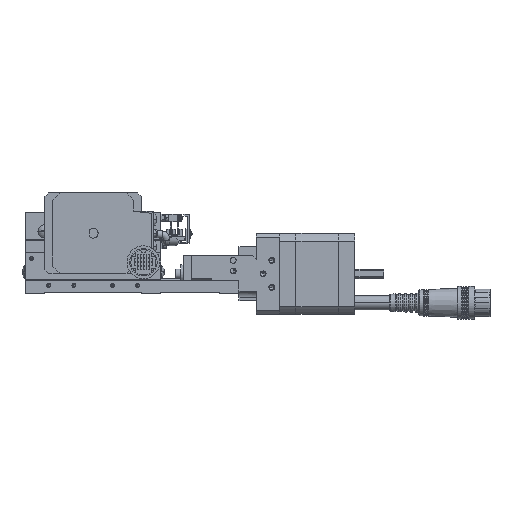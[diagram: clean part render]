
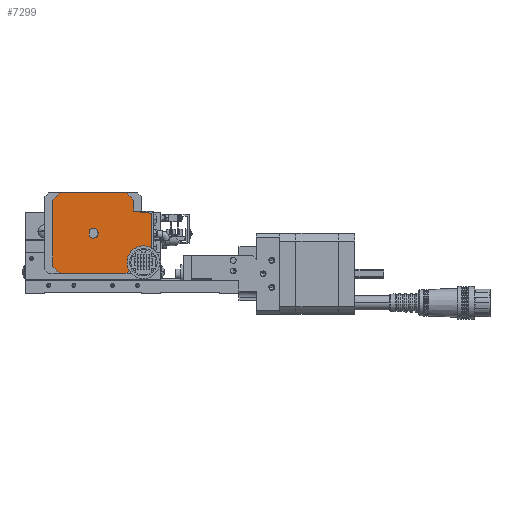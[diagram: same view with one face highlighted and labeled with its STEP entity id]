
A CAD part, front view. The second image highlights one B-rep face of the part: STEP entity #7299.
In plain terms, the highlighted planar face has unit normal (0, -1, 0) as drawn and (-1, 0, 0) by its records, which use the part's own axes.
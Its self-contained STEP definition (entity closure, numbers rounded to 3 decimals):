
#67 = EDGE_CURVE ( 'NONE', #96654, #120110, #41682, .T. ) ;
#1210 = EDGE_CURVE ( 'NONE', #100729, #46869, #6474, .T. ) ;
#1232 = DIRECTION ( 'NONE',  ( 0., -0.122, 0.993 ) ) ;
#1711 = CARTESIAN_POINT ( 'NONE',  ( -237.04, 5.275, -124.023 ) ) ;
#2752 = VECTOR ( 'NONE', #92043, 1000. ) ;
#2951 = AXIS2_PLACEMENT_3D ( 'NONE', #107377, #106962, #1232 ) ;
#3782 = AXIS2_PLACEMENT_3D ( 'NONE', #60313, #79775, #98337 ) ;
#3930 = CARTESIAN_POINT ( 'NONE',  ( -237.04, -3.725, -145.476 ) ) ;
#5865 = DIRECTION ( 'NONE',  ( 0., 0., -1. ) ) ;
#5866 = DIRECTION ( 'NONE',  ( 0., 0.778, 0.629 ) ) ;
#6474 = CIRCLE ( 'NONE', #7114, 27. ) ;
#6768 = EDGE_LOOP ( 'NONE', ( #83223, #121731, #15292, #112056, #106180, #106264, #63328, #22920, #55509, #65400, #79569, #59676, #13756, #70045 ) ) ;
#7114 = AXIS2_PLACEMENT_3D ( 'NONE', #15417, #83081, #113072 ) ;
#7299 = ADVANCED_FACE ( 'NONE', ( #58858, #33096 ), #38663, .F. ) ;
#9671 = VECTOR ( 'NONE', #60873, 1000. ) ;
#11633 = EDGE_CURVE ( 'NONE', #78178, #50554, #107888, .T. ) ;
#12672 = LINE ( 'NONE', #118751, #9671 ) ;
#12747 = CIRCLE ( 'NONE', #39600, 2.5 ) ;
#13327 = LINE ( 'NONE', #72217, #2752 ) ;
#13756 = ORIENTED_EDGE ( 'NONE', *, *, #67, .F. ) ;
#14201 = EDGE_CURVE ( 'NONE', #96919, #87639, #12747, .T. ) ;
#15292 = ORIENTED_EDGE ( 'NONE', *, *, #1210, .F. ) ;
#15417 = CARTESIAN_POINT ( 'NONE',  ( -237.04, 26.275, -135.523 ) ) ;
#17325 = VERTEX_POINT ( 'NONE', #101163 ) ;
#17919 = CARTESIAN_POINT ( 'NONE',  ( -237.04, 5.275, -124.023 ) ) ;
#19203 = DIRECTION ( 'NONE',  ( 1., 0., 0. ) ) ;
#19207 = VERTEX_POINT ( 'NONE', #24014 ) ;
#21455 = DIRECTION ( 'NONE',  ( 1., 0., 0. ) ) ;
#22920 = ORIENTED_EDGE ( 'NONE', *, *, #120442, .F. ) ;
#23160 = VERTEX_POINT ( 'NONE', #103707 ) ;
#24014 = CARTESIAN_POINT ( 'NONE',  ( -237.04, 43.246, -114.523 ) ) ;
#24165 = DIRECTION ( 'NONE',  ( 0., 0., -1. ) ) ;
#25520 = EDGE_CURVE ( 'NONE', #120110, #123852, #114483, .T. ) ;
#27183 = VERTEX_POINT ( 'NONE', #123508 ) ;
#27237 = DIRECTION ( 'NONE',  ( 0., -0.993, -0.122 ) ) ;
#28922 = DIRECTION ( 'NONE',  ( 0., 0., -1. ) ) ;
#28957 = CARTESIAN_POINT ( 'NONE',  ( -237.04, 28.275, -134.023 ) ) ;
#29709 = DIRECTION ( 'NONE',  ( 0., -1., 0. ) ) ;
#30760 = CARTESIAN_POINT ( 'NONE',  ( -237.04, -3.725, -125.57 ) ) ;
#32074 = CARTESIAN_POINT ( 'NONE',  ( -237.04, 5.275, -118.552 ) ) ;
#33096 = FACE_BOUND ( 'NONE', #81440, .T. ) ;
#33433 = AXIS2_PLACEMENT_3D ( 'NONE', #116547, #21455, #116979 ) ;
#35450 = CARTESIAN_POINT ( 'NONE',  ( -237.04, 5.275, -147.023 ) ) ;
#36725 = CARTESIAN_POINT ( 'NONE',  ( -237.04, 26.275, -135.523 ) ) ;
#38663 = PLANE ( 'NONE',  #104234 ) ;
#38876 = EDGE_CURVE ( 'NONE', #53387, #78178, #50862, .T. ) ;
#39012 = EDGE_CURVE ( 'NONE', #123852, #104866, #56935, .T. ) ;
#39600 = AXIS2_PLACEMENT_3D ( 'NONE', #80484, #110065, #50474 ) ;
#40833 = EDGE_CURVE ( 'NONE', #46869, #17325, #12672, .T. ) ;
#41682 = CIRCLE ( 'NONE', #3782, 27. ) ;
#42458 = VECTOR ( 'NONE', #29709, 1000. ) ;
#45377 = CARTESIAN_POINT ( 'NONE',  ( -237.04, -3.286, -145.972 ) ) ;
#46869 = VERTEX_POINT ( 'NONE', #124956 ) ;
#46999 = EDGE_CURVE ( 'NONE', #27183, #47709, #74915, .T. ) ;
#47709 = VERTEX_POINT ( 'NONE', #3930 ) ;
#48983 = EDGE_CURVE ( 'NONE', #96919, #87639, #68435, .T. ) ;
#49757 = EDGE_CURVE ( 'NONE', #19207, #96654, #77292, .T. ) ;
#50474 = DIRECTION ( 'NONE',  ( 0., 0.8, 0.6 ) ) ;
#50554 = VERTEX_POINT ( 'NONE', #102182 ) ;
#50862 = LINE ( 'NONE', #45377, #100801 ) ;
#53319 = CARTESIAN_POINT ( 'NONE',  ( -237.04, 5.275, -118.552 ) ) ;
#53387 = VERTEX_POINT ( 'NONE', #54585 ) ;
#54585 = CARTESIAN_POINT ( 'NONE',  ( -237.04, -3.286, -145.972 ) ) ;
#55509 = ORIENTED_EDGE ( 'NONE', *, *, #46999, .F. ) ;
#56285 = CARTESIAN_POINT ( 'NONE',  ( -237.04, 5.275, -147.023 ) ) ;
#56390 = ORIENTED_EDGE ( 'NONE', *, *, #48983, .F. ) ;
#56935 = LINE ( 'NONE', #17919, #99243 ) ;
#58476 = VECTOR ( 'NONE', #72343, 1000. ) ;
#58858 = FACE_OUTER_BOUND ( 'NONE', #6768, .T. ) ;
#59676 = ORIENTED_EDGE ( 'NONE', *, *, #25520, .F. ) ;
#60313 = CARTESIAN_POINT ( 'NONE',  ( -237.04, 26.275, -135.523 ) ) ;
#60330 = DIRECTION ( 'NONE',  ( 0., 0., -1. ) ) ;
#60873 = DIRECTION ( 'NONE',  ( 0., 0., 1. ) ) ;
#61950 = AXIS2_PLACEMENT_3D ( 'NONE', #84442, #75133, #114439 ) ;
#63328 = ORIENTED_EDGE ( 'NONE', *, *, #38876, .F. ) ;
#64938 = CIRCLE ( 'NONE', #33433, 27. ) ;
#65400 = ORIENTED_EDGE ( 'NONE', *, *, #88783, .F. ) ;
#66861 = CARTESIAN_POINT ( 'NONE',  ( -237.04, 28.275, -137.023 ) ) ;
#68435 = LINE ( 'NONE', #101452, #122733 ) ;
#70045 = ORIENTED_EDGE ( 'NONE', *, *, #49757, .F. ) ;
#71793 = EDGE_CURVE ( 'NONE', #17325, #19207, #117179, .T. ) ;
#72217 = CARTESIAN_POINT ( 'NONE',  ( -237.04, 9.305, -156.523 ) ) ;
#72343 = DIRECTION ( 'NONE',  ( 0., 0., -1. ) ) ;
#72676 = ORIENTED_EDGE ( 'NONE', *, *, #14201, .T. ) ;
#74915 = LINE ( 'NONE', #30760, #88371 ) ;
#75133 = DIRECTION ( 'NONE',  ( 1., 0., 0. ) ) ;
#77292 = LINE ( 'NONE', #96849, #42458 ) ;
#78178 = VERTEX_POINT ( 'NONE', #56285 ) ;
#78375 = CARTESIAN_POINT ( 'NONE',  ( -237.04, -27.776, -85.972 ) ) ;
#79569 = ORIENTED_EDGE ( 'NONE', *, *, #39012, .F. ) ;
#79775 = DIRECTION ( 'NONE',  ( 1., 0., 0. ) ) ;
#80484 = CARTESIAN_POINT ( 'NONE',  ( -237.04, 26.275, -135.523 ) ) ;
#81440 = EDGE_LOOP ( 'NONE', ( #72676, #56390 ) ) ;
#82169 = VECTOR ( 'NONE', #5865, 1000. ) ;
#83081 = DIRECTION ( 'NONE',  ( 1., 0., 0. ) ) ;
#83223 = ORIENTED_EDGE ( 'NONE', *, *, #71793, .F. ) ;
#83474 = DIRECTION ( 'NONE',  ( 0., 0.993, -0.122 ) ) ;
#84442 = CARTESIAN_POINT ( 'NONE',  ( -237.04, -3.225, -145.476 ) ) ;
#87639 = VERTEX_POINT ( 'NONE', #66861 ) ;
#88371 = VECTOR ( 'NONE', #60330, 1000. ) ;
#88783 = EDGE_CURVE ( 'NONE', #104866, #27183, #105719, .T. ) ;
#92043 = DIRECTION ( 'NONE',  ( 0., 1., 0. ) ) ;
#92382 = CARTESIAN_POINT ( 'NONE',  ( -237.04, 9.305, -114.523 ) ) ;
#96654 = VERTEX_POINT ( 'NONE', #92382 ) ;
#96849 = CARTESIAN_POINT ( 'NONE',  ( -237.04, 43.246, -114.523 ) ) ;
#96919 = VERTEX_POINT ( 'NONE', #28957 ) ;
#98337 = DIRECTION ( 'NONE',  ( 0., -0.629, 0.778 ) ) ;
#99243 = VECTOR ( 'NONE', #27237, 1000. ) ;
#100729 = VERTEX_POINT ( 'NONE', #105705 ) ;
#100801 = VECTOR ( 'NONE', #83474, 1000. ) ;
#101163 = CARTESIAN_POINT ( 'NONE',  ( -237.04, 47.275, -118.552 ) ) ;
#101452 = CARTESIAN_POINT ( 'NONE',  ( -237.04, 28.275, -134.023 ) ) ;
#102182 = CARTESIAN_POINT ( 'NONE',  ( -237.04, 5.275, -152.494 ) ) ;
#103707 = CARTESIAN_POINT ( 'NONE',  ( -237.04, 9.305, -156.523 ) ) ;
#104234 = AXIS2_PLACEMENT_3D ( 'NONE', #78375, #19203, #28922 ) ;
#104866 = VERTEX_POINT ( 'NONE', #107841 ) ;
#105705 = CARTESIAN_POINT ( 'NONE',  ( -237.04, 43.246, -156.523 ) ) ;
#105719 = CIRCLE ( 'NONE', #2951, 0.5 ) ;
#106180 = ORIENTED_EDGE ( 'NONE', *, *, #118804, .F. ) ;
#106264 = ORIENTED_EDGE ( 'NONE', *, *, #11633, .F. ) ;
#106962 = DIRECTION ( 'NONE',  ( 1., 0., 0. ) ) ;
#107377 = CARTESIAN_POINT ( 'NONE',  ( -237.04, -3.225, -125.57 ) ) ;
#107841 = CARTESIAN_POINT ( 'NONE',  ( -237.04, -3.286, -125.074 ) ) ;
#107888 = LINE ( 'NONE', #35450, #82169 ) ;
#108576 = CIRCLE ( 'NONE', #61950, 0.5 ) ;
#110065 = DIRECTION ( 'NONE',  ( 1., 0., 0. ) ) ;
#112056 = ORIENTED_EDGE ( 'NONE', *, *, #120254, .F. ) ;
#112809 = DIRECTION ( 'NONE',  ( 1., 0., 0. ) ) ;
#113072 = DIRECTION ( 'NONE',  ( 0., 0.629, -0.778 ) ) ;
#113311 = AXIS2_PLACEMENT_3D ( 'NONE', #36725, #112809, #5866 ) ;
#114439 = DIRECTION ( 'NONE',  ( 0., -1., 0. ) ) ;
#114483 = LINE ( 'NONE', #53319, #58476 ) ;
#116547 = CARTESIAN_POINT ( 'NONE',  ( -237.04, 26.275, -135.523 ) ) ;
#116979 = DIRECTION ( 'NONE',  ( 0., -0.778, -0.629 ) ) ;
#117179 = CIRCLE ( 'NONE', #113311, 27. ) ;
#118751 = CARTESIAN_POINT ( 'NONE',  ( -237.04, 47.275, -152.494 ) ) ;
#118804 = EDGE_CURVE ( 'NONE', #50554, #23160, #64938, .T. ) ;
#120110 = VERTEX_POINT ( 'NONE', #32074 ) ;
#120254 = EDGE_CURVE ( 'NONE', #23160, #100729, #13327, .T. ) ;
#120442 = EDGE_CURVE ( 'NONE', #47709, #53387, #108576, .T. ) ;
#121731 = ORIENTED_EDGE ( 'NONE', *, *, #40833, .F. ) ;
#122733 = VECTOR ( 'NONE', #24165, 1000. ) ;
#123508 = CARTESIAN_POINT ( 'NONE',  ( -237.04, -3.725, -125.57 ) ) ;
#123852 = VERTEX_POINT ( 'NONE', #1711 ) ;
#124956 = CARTESIAN_POINT ( 'NONE',  ( -237.04, 47.275, -152.494 ) ) ;
